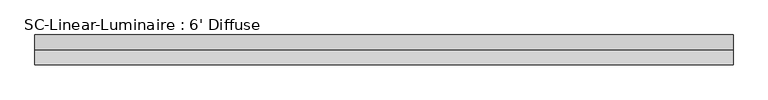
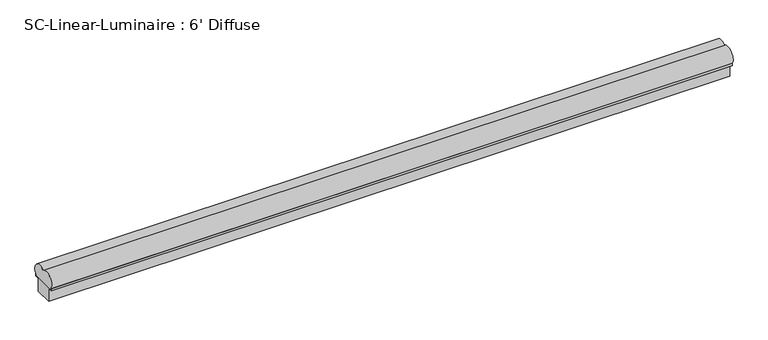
"""IFC4 building model written with IfcOpenShell, lengths in millimetres: light fixture geometry, SC-Linear-Luminaire : 6' Diffuse."""

from ifc_helpers import new_model, si_unit, point, frame, frame_2d, origin, place, context, project, spatial, polyline, circle_curve, trimmed, segment, composite_curve, outline, extrude, source, transform, mapped, element, save


def sc_linear_luminaire_6_diffuse_c174722b(model_context):
    return source(origin(), model_context, "Body", "SweptSolid", [
        extrude(outline(composite_curve([segment(polyline([(-29.845, 66.5757209), (-32.8454104, 66.5757209)]), True, "CONTINUOUS"), segment(trimmed(circle_curve(frame_2d((-14.3558875, 77.5765226)), 21.5146484), [point((-32.8454104, 66.5757209))], [point((0.0, 93.601147))], False, "CARTESIAN"), True, "CONTINUOUS"), segment(trimmed(circle_curve(frame_2d((14.3558875, 77.5765226)), 21.5146484), [point((0.0, 93.601147))], [point((32.8454104, 66.5757209))], False, "CARTESIAN"), True, "CONTINUOUS"), segment(polyline([(32.8454104, 66.5757209), (29.845, 66.5757209), (29.845, 62.6426128), (-29.845, 62.6426128), (-29.845, 66.5757209)]), True, "CONTINUOUS")], self_intersect=False)), frame((-838.2, 0.0, 0.0), z_axis=(1.0, 0.0, 0.0), x_axis=(0.0, 1.0, 0.0)), (0.0, 0.0, 1.0), 1676.4),
        extrude(outline(polyline([(33.02, 66.5757209), (33.02, 60.325), (22.225, 60.325), (22.225, 26.45), (-22.225, 26.45), (-22.225, 60.325), (-33.02, 60.325), (-33.02, 66.5757209), (-29.845, 66.5757209), (-29.845, 62.6426128), (29.845, 62.6426128), (29.845, 66.5757209), (33.02, 66.5757209)])), frame((-838.2, 0.0, 0.0), z_axis=(1.0, 0.0, 0.0), x_axis=(0.0, 1.0, 0.0)), (0.0, 0.0, 1.0), 1676.4),
    ])


if __name__ == "__main__":
    model = new_model("IFC4")
    model_context = context("Model", 3, world=origin())
    ifc_project = project(units=[si_unit("LENGTHUNIT", "METRE", prefix="MILLI")], contexts=[model_context])
    site = spatial("IfcSite", under=ifc_project)
    building = spatial("IfcBuilding", under=site)
    placement = place(None, origin())
    sc_linear_luminaire_6_diffuse_shape = sc_linear_luminaire_6_diffuse_c174722b(model_context)
    element("IfcLightFixture", 1, ObjectType="SC-Linear-Luminaire : 6' Diffuse", at=placement, inside=building, context=model_context, shape_type="MappedRepresentation", body=[
        mapped(sc_linear_luminaire_6_diffuse_shape, transform((0.0, 0.0, 0.0), x_axis=(1.0, 0.0, 0.0), y_axis=(0.0, 1.0, 0.0), z_axis=(0.0, 0.0, 1.0))),
    ])
    save(model, "model.ifc")
